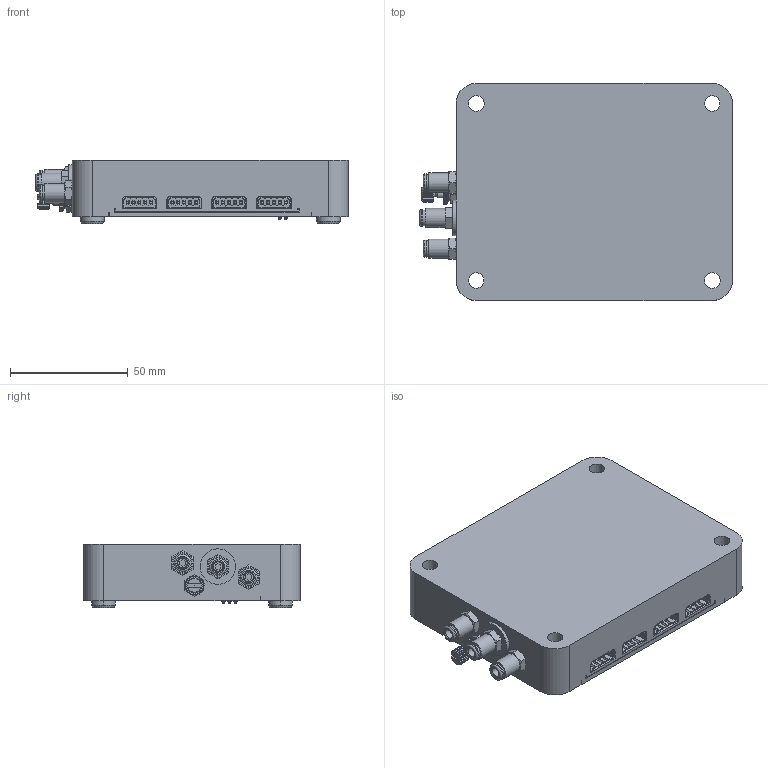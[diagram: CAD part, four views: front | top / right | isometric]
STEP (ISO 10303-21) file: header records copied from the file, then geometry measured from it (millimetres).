
FILE_DESCRIPTION(/* description */ (''),/* implementation_level */ '2;1');
FILE_NAME(/* name */ 'IO_module_assembly_Simplify_1.stp',/* time_stamp */ '2023-06-21T07:52:53-04:00',/* author */ ('Jonathan Coulombe'),/* organization */ (''),/* preprocessor_version */ 'ST-DEVELOPER v19.2',/* originating_system */ 'Autodesk Inventor 2024',/* authorisation */ '');
FILE_SCHEMA (('AUTOMOTIVE_DESIGN { 1 0 10303 214 3 1 1 }'));
Products named in the file (1): Vaccum module asembly_Simplify_1
Bounding box: 132.5 x 92 x 27 mm (x, y, z)
Volume: 253814.4 mm3; surface area: 41846.6 mm2
Topology: 1 solids, 4 shells, 2002 faces, 5686 edges, 3721 vertices
Faces by surface type: plane 1485, cylinder 274, cone 230, sphere 6, torus 5, bspline 2
Full cylindrical faces by diameter (mm): 0.8 x8, 1.062 x6, 1.473 x6, 3.788 x3, 3.8 x7, 3.961 x1, 4 x3, 4.134 x1, 5.173 x3, 6.5 x2, 6.561 x3, 6.647 x2, 7.29 x3, 8.1 x3, 10 x2, 15 x1
Entity records: 67440 total; most frequent: CARTESIAN_POINT 12756, ORIENTED_EDGE 11360, DIRECTION 10335, EDGE_CURVE 5680, LINE 4387, VECTOR 4387, VERTEX_POINT 3721, AXIS2_PLACEMENT_3D 2974
